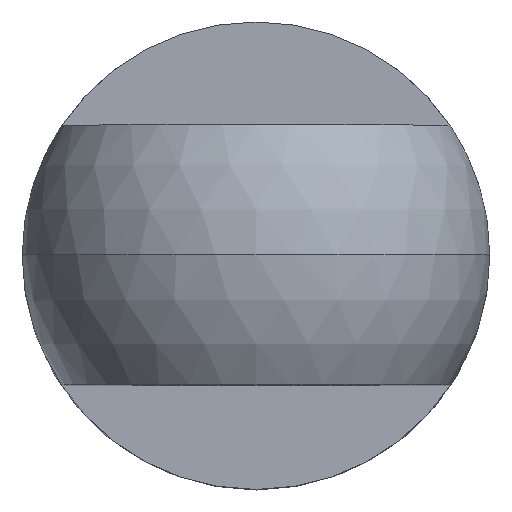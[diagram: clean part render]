
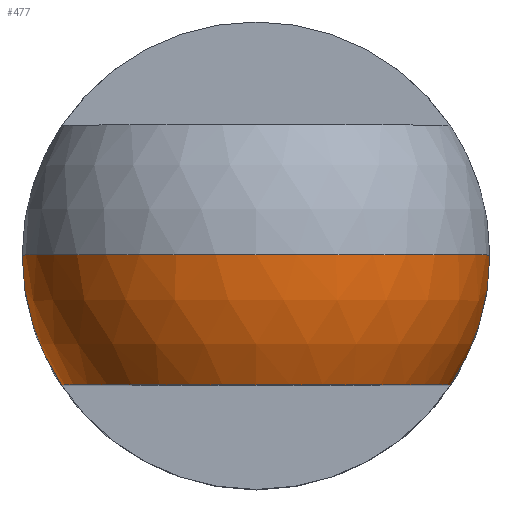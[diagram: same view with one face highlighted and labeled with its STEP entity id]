
A CAD part, top view. The second image highlights one B-rep face of the part: STEP entity #477.
In plain terms, the highlighted spherical face has radius 9 mm.
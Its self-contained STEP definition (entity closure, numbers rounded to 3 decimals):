
#7 = CARTESIAN_POINT ( 'NONE',  ( 7.483, -5., 27. ) ) ;
#84 = EDGE_CURVE ( 'NONE', #415, #180, #533, .T. ) ;
#105 = DIRECTION ( 'NONE',  ( 0., 0., -1. ) ) ;
#114 = DIRECTION ( 'NONE',  ( -1., 0., 0. ) ) ;
#117 = ORIENTED_EDGE ( 'NONE', *, *, #145, .F. ) ;
#118 = CARTESIAN_POINT ( 'NONE',  ( 0., 0., 36. ) ) ;
#145 = EDGE_CURVE ( 'NONE', #180, #462, #341, .T. ) ;
#149 = DIRECTION ( 'NONE',  ( 0., -1., 0. ) ) ;
#154 = EDGE_CURVE ( 'NONE', #505, #462, #285, .T. ) ;
#157 = CARTESIAN_POINT ( 'NONE',  ( -7.483, -5., 27. ) ) ;
#160 = DIRECTION ( 'NONE',  ( 0., 0., -1. ) ) ;
#170 = VERTEX_POINT ( 'NONE', #492 ) ;
#171 = CARTESIAN_POINT ( 'NONE',  ( 0., 0., 27. ) ) ;
#180 = VERTEX_POINT ( 'NONE', #157 ) ;
#197 = FACE_OUTER_BOUND ( 'NONE', #365, .T. ) ;
#205 = ORIENTED_EDGE ( 'NONE', *, *, #384, .F. ) ;
#210 = DIRECTION ( 'NONE',  ( 0., 1., 0. ) ) ;
#216 = ORIENTED_EDGE ( 'NONE', *, *, #84, .F. ) ;
#249 = AXIS2_PLACEMENT_3D ( 'NONE', #171, #210, #368 ) ;
#285 = CIRCLE ( 'NONE', #450, 9. ) ;
#303 = CIRCLE ( 'NONE', #614, 9. ) ;
#338 = DIRECTION ( 'NONE',  ( 1., 0., 0. ) ) ;
#341 = CIRCLE ( 'NONE', #542, 9. ) ;
#365 = EDGE_LOOP ( 'NONE', ( #611, #494, #117, #216, #205 ) ) ;
#368 = DIRECTION ( 'NONE',  ( -1., 0., 0. ) ) ;
#372 = DIRECTION ( 'NONE',  ( 0., 1., 0. ) ) ;
#384 = EDGE_CURVE ( 'NONE', #170, #415, #303, .T. ) ;
#385 = CARTESIAN_POINT ( 'NONE',  ( 0., 0., 27. ) ) ;
#408 = AXIS2_PLACEMENT_3D ( 'NONE', #523, #469, #338 ) ;
#415 = VERTEX_POINT ( 'NONE', #7 ) ;
#428 = CIRCLE ( 'NONE', #619, 9. ) ;
#439 = DIRECTION ( 'NONE',  ( -1., 0., 0. ) ) ;
#441 = EDGE_CURVE ( 'NONE', #505, #170, #428, .T. ) ;
#450 = AXIS2_PLACEMENT_3D ( 'NONE', #526, #149, #583 ) ;
#462 = VERTEX_POINT ( 'NONE', #552 ) ;
#469 = DIRECTION ( 'NONE',  ( 0., -1., 0. ) ) ;
#477 = ADVANCED_FACE ( 'NONE', ( #197 ), #596, .T. ) ;
#492 = CARTESIAN_POINT ( 'NONE',  ( 9., 0., 27. ) ) ;
#494 = ORIENTED_EDGE ( 'NONE', *, *, #154, .T. ) ;
#500 = CARTESIAN_POINT ( 'NONE',  ( 0., 0., 27. ) ) ;
#502 = DIRECTION ( 'NONE',  ( -1., 0., 0. ) ) ;
#505 = VERTEX_POINT ( 'NONE', #118 ) ;
#523 = CARTESIAN_POINT ( 'NONE',  ( 0., -5., 27. ) ) ;
#526 = CARTESIAN_POINT ( 'NONE',  ( 0., 0., 27. ) ) ;
#533 = CIRCLE ( 'NONE', #408, 7.483 ) ;
#542 = AXIS2_PLACEMENT_3D ( 'NONE', #385, #160, #114 ) ;
#552 = CARTESIAN_POINT ( 'NONE',  ( -9., 0., 27. ) ) ;
#583 = DIRECTION ( 'NONE',  ( 0., 0., -1. ) ) ;
#591 = CARTESIAN_POINT ( 'NONE',  ( 0., 0., 27. ) ) ;
#596 = SPHERICAL_SURFACE ( 'NONE', #249, 9. ) ;
#611 = ORIENTED_EDGE ( 'NONE', *, *, #441, .F. ) ;
#614 = AXIS2_PLACEMENT_3D ( 'NONE', #591, #105, #439 ) ;
#619 = AXIS2_PLACEMENT_3D ( 'NONE', #500, #372, #502 ) ;
